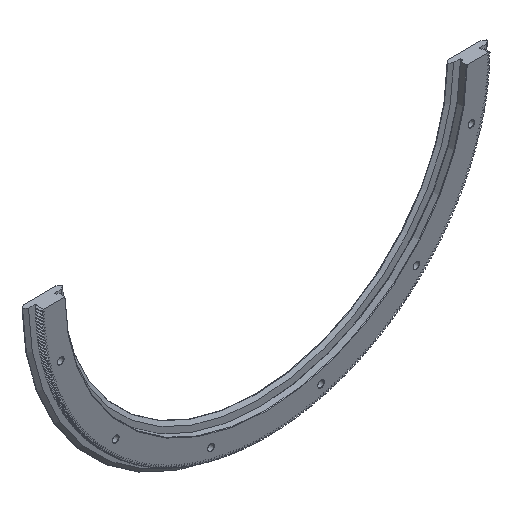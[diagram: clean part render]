
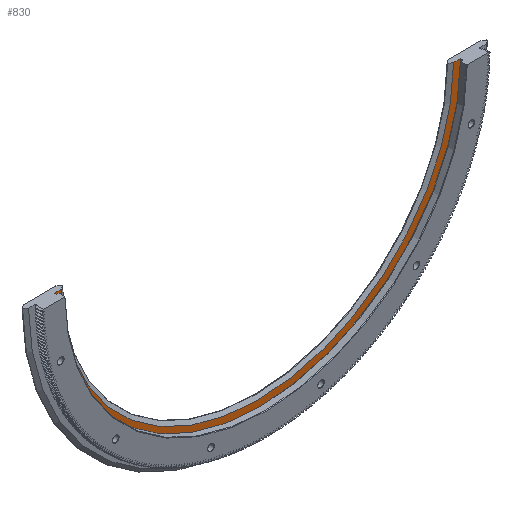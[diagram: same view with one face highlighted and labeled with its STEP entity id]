
A CAD part, isometric view. The second image highlights one B-rep face of the part: STEP entity #830.
In plain terms, the highlighted planar face has unit normal (0, -1, 0).
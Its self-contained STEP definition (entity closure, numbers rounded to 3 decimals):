
#830 = ADVANCED_FACE( '', ( #3110 ), #3111, .T. );
#3110 = FACE_OUTER_BOUND( '', #6167, .T. );
#3111 = PLANE( '', #6168 );
#6167 = EDGE_LOOP( '', ( #14966, #14967, #14968, #14969 ) );
#6168 = AXIS2_PLACEMENT_3D( '', #14970, #14971, #14972 );
#14966 = ORIENTED_EDGE( '', *, *, #23707, .T. );
#14967 = ORIENTED_EDGE( '', *, *, #23708, .T. );
#14968 = ORIENTED_EDGE( '', *, *, #23709, .F. );
#14969 = ORIENTED_EDGE( '', *, *, #20235, .T. );
#14970 = CARTESIAN_POINT( '', ( -215.914, 9.5, 0. ) );
#14971 = DIRECTION( '', ( 0., -1., 0. ) );
#14972 = DIRECTION( '', ( 0., 0., -1. ) );
#20235 = EDGE_CURVE( '', #24246, #24244, #24247, .T. );
#23707 = EDGE_CURVE( '', #24244, #30188, #30189, .T. );
#23708 = EDGE_CURVE( '', #30188, #30190, #30191, .T. );
#23709 = EDGE_CURVE( '', #24246, #30190, #30192, .T. );
#24244 = VERTEX_POINT( '', #30769 );
#24246 = VERTEX_POINT( '', #30772 );
#24247 = LINE( '', #30773, #30774 );
#30188 = VERTEX_POINT( '', #40421 );
#30189 = CIRCLE( '', #40422, 223.6 );
#30190 = VERTEX_POINT( '', #40423 );
#30191 = LINE( '', #40424, #40425 );
#30192 = CIRCLE( '', #40426, 215.914 );
#30769 = CARTESIAN_POINT( '', ( -223.591, 9.5, -2. ) );
#30772 = CARTESIAN_POINT( '', ( -215.905, 9.5, -2. ) );
#30773 = CARTESIAN_POINT( '', ( -215.914, 9.5, -2. ) );
#30774 = VECTOR( '', #40979, 1000. );
#40421 = CARTESIAN_POINT( '', ( 223.591, 9.5, -2. ) );
#40422 = AXIS2_PLACEMENT_3D( '', #45488, #45489, #45490 );
#40423 = CARTESIAN_POINT( '', ( 215.905, 9.5, -2. ) );
#40424 = CARTESIAN_POINT( '', ( -215.914, 9.5, -2. ) );
#40425 = VECTOR( '', #45491, 1000. );
#40426 = AXIS2_PLACEMENT_3D( '', #45492, #45493, #45494 );
#40979 = DIRECTION( '', ( -1., 0., 0. ) );
#45488 = CARTESIAN_POINT( '', ( 0., 9.5, 0. ) );
#45489 = DIRECTION( '', ( 0., -1., 0. ) );
#45490 = DIRECTION( '', ( 0., 0., -1. ) );
#45491 = DIRECTION( '', ( -1., 0., 0. ) );
#45492 = CARTESIAN_POINT( '', ( 0., 9.5, 0. ) );
#45493 = DIRECTION( '', ( 0., -1., 0. ) );
#45494 = DIRECTION( '', ( 0., 0., -1. ) );
